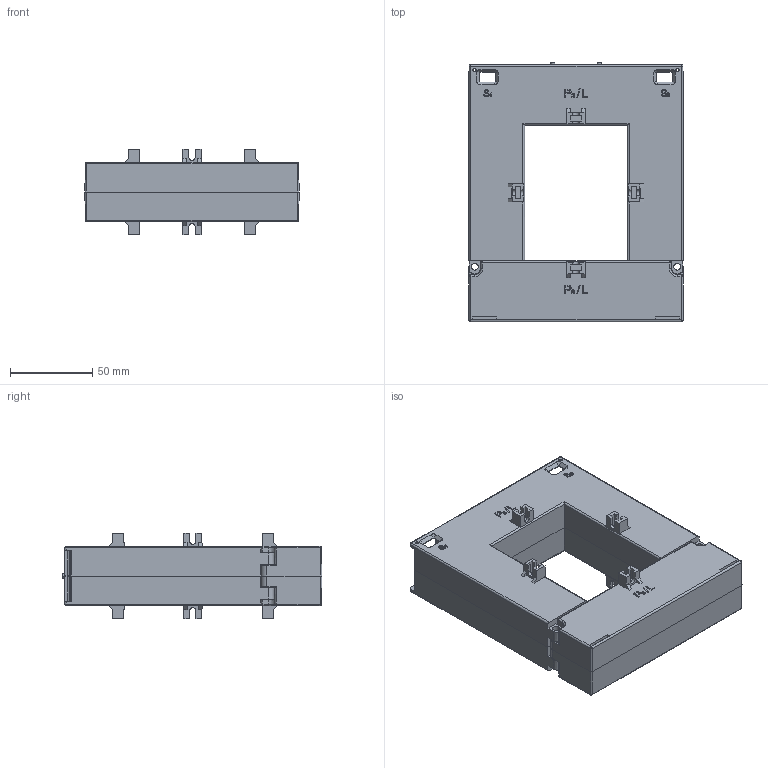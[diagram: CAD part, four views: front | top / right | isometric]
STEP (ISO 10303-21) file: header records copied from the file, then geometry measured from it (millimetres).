
FILE_DESCRIPTION(/* description */ (''),/* implementation_level */ '2;1');
FILE_NAME(/* name */ 'TA80P.step',/* time_stamp */ '2025-12-15T10:07:28+01:00',/* author */ (''),/* organization */ (''),/* preprocessor_version */ 'ST-DEVELOPER v20.1',/* originating_system */ 'Autodesk Translation Framework v14.21.0.0',/* authorisation */ '');
FILE_SCHEMA (('AUTOMOTIVE_DESIGN { 1 0 10303 214 3 1 1 }'));
Length unit declared in the file: millimetre
Products named in the file (1): TA80P
Bounding box: 129.8 x 157.47 x 52 mm (x, y, z)
Volume: 152240.1 mm3; surface area: 139976 mm2
Topology: 4 solids, 4 shells, 1316 faces, 3644 edges, 2384 vertices
Faces by surface type: plane 910, cylinder 282, bspline 76, cone 32, torus 8, sphere 8
Full cylindrical faces by diameter (mm): 1.006 x4, 4.2 x8, 5.2 x2, 5.5 x2
Entity records: 45455 total; most frequent: CARTESIAN_POINT 11799, ORIENTED_EDGE 7256, DIRECTION 6542, EDGE_CURVE 3628, LINE 2848, VECTOR 2848, VERTEX_POINT 2384, AXIS2_PLACEMENT_3D 1847
